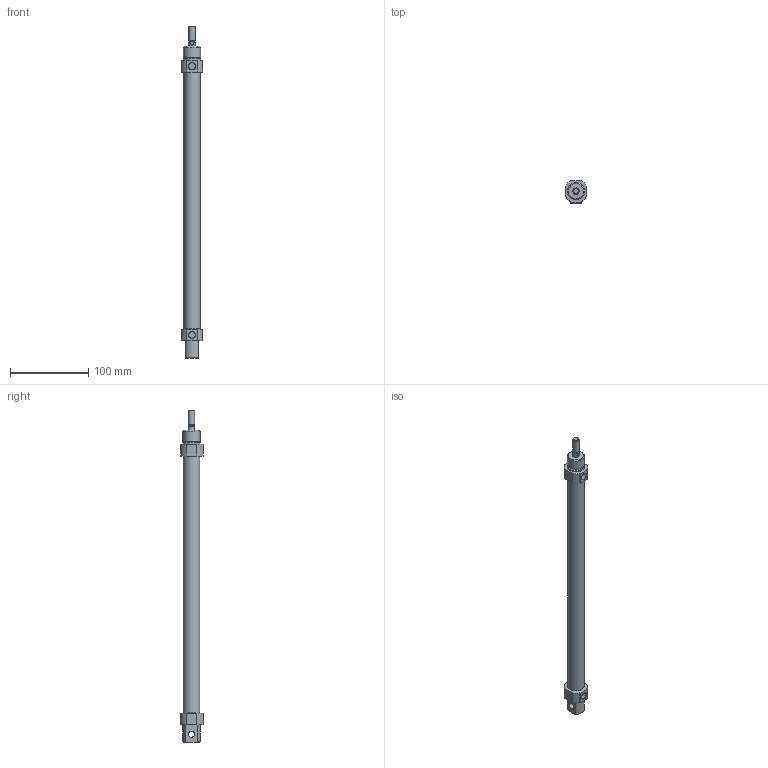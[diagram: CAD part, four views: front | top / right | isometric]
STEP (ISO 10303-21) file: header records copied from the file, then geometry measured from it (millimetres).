
FILE_DESCRIPTION((''),'2;1');
FILE_NAME('I:\3D電子目錄\氣缸\SDA\SDA20\SDA20\SDA20x300.stp','2007-08-06T10:31:25',('Administrator'),(''),'Autodesk Inventor 2008','Autodesk Inventor 2008','');
FILE_SCHEMA(('AUTOMOTIVE_DESIGN { 1 0 10303 214 1 1 1 1 }'));
Length unit declared in the file: millimetre
Products named in the file (1): SDA20X300
Bounding box: 27 x 28.5 x 425 mm (x, y, z)
Volume: 149352.4 mm3; surface area: 31017.7 mm2
Topology: 1 solids, 1 shells, 62 faces, 146 edges, 94 vertices
Faces by surface type: plane 30, cylinder 19, cone 10, bspline 2, torus 1
Full cylindrical faces by diameter (mm): 6.6 x1, 8 x3, 8.5 x2, 21.2 x1, 22 x2
Entity records: 1718 total; most frequent: CARTESIAN_POINT 307, DIRECTION 298, ORIENTED_EDGE 258, EDGE_CURVE 129, AXIS2_PLACEMENT_3D 116, VERTEX_POINT 93, EDGE_LOOP 88, VECTOR 66
